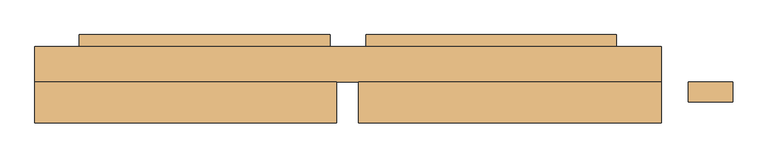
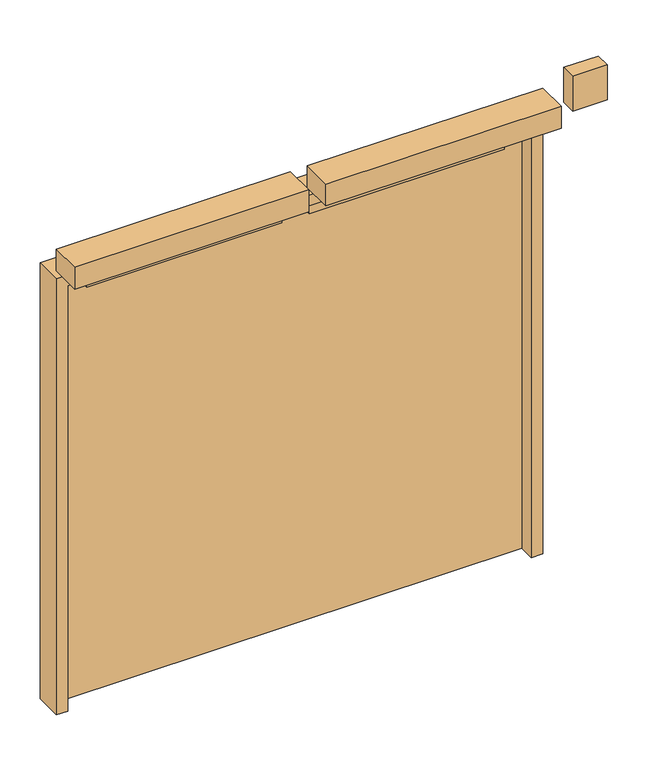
"""IFC4 building model written with IfcOpenShell, lengths in millimetres: door geometry, LOC_Pardörr : LOC_Pardörr."""

from ifc_helpers import new_model, si_unit, frame, origin, origin_with_axes, place, context, project, spatial, polyline, outline, extrude, source, transform, mapped, element, save


def door_fafea6f1(model_context):
    return source(origin(), model_context, "Body", "SweptSolid", [
        extrude(outline(polyline([(905.0, 60.0), (60.0, 60.0), (60.0, 99.5123201), (905.0, 99.5123201), (905.0, 60.0)])), frame((0.0, 0.0, 1890.0), z_axis=(0.0, 0.0, 1.0), x_axis=(1.0, 0.0, 0.0)), (0.0, 0.0, 1.0), 40.0),
        extrude(outline(polyline([(-60.0, 60.0), (-905.0, 60.0), (-905.0, 99.5123201), (-60.0, 99.5123201), (-60.0, 60.0)])), frame((0.0, 0.0, 1890.0), z_axis=(0.0, 0.0, 1.0), x_axis=(1.0, 0.0, 0.0)), (0.0, 0.0, 1.0), 40.0),
        extrude(outline(polyline([(905.0, -31.5696103), (60.0, -31.5696103), (60.0, 10.0), (905.0, 10.0), (905.0, -31.5696103)])), frame((0.0, 0.0, 1890.0), z_axis=(0.0, 0.0, 1.0), x_axis=(1.0, 0.0, 0.0)), (0.0, 0.0, 1.0), 40.0),
        extrude(outline(polyline([(-60.0, -31.5696103), (-905.0, -31.5696103), (-905.0, 10.0), (-60.0, 10.0), (-60.0, -31.5696103)])), frame((0.0, 0.0, 1890.0), z_axis=(0.0, 0.0, 1.0), x_axis=(1.0, 0.0, 0.0)), (0.0, 0.0, 1.0), 40.0),
        extrude(outline(polyline([(1005.0, 10.0), (-1005.0, 10.0), (-1005.0, 60.0), (1005.0, 60.0), (1005.0, 10.0)])), origin_with_axes(), (0.0, 0.0, 1.0), 1950.0),
        extrude(outline(polyline([(2000.0, -1055.0), (0.0, -1055.0), (0.0, -1005.0), (1950.0, -1005.0), (1950.0, 1005.0), (0.0, 1005.0), (0.0, 1055.0), (2000.0, 1055.0), (2000.0, -1055.0)])), frame((0.0, -60.0, 0.0), z_axis=(0.0, 1.0, 0.0), x_axis=(0.0, 0.0, 1.0)), (0.0, 0.0, 1.0), 120.0),
        extrude(outline(polyline([(1295.9876923, -126.6811453), (1145.9876923, -126.6811453), (1145.9876923, -60.0), (1295.9876923, -60.0), (1295.9876923, -126.6811453)])), frame((0.0, 0.0, 2037.7010948), z_axis=(0.0, 0.0, 1.0), x_axis=(1.0, 0.0, 0.0)), (0.0, 0.0, 1.0), 160.0),
        extrude(outline(polyline([(1055.0, -198.0061913), (35.0, -198.0061913), (35.0, -60.0), (1055.0, -60.0), (1055.0, -198.0061913)])), frame((0.0, 0.0, 2035.3458836), z_axis=(0.0, 0.0, 1.0), x_axis=(1.0, 0.0, 0.0)), (0.0, 0.0, 1.0), 100.0),
        extrude(outline(polyline([(-38.7694663, -198.0061913), (-1055.0, -198.0061913), (-1055.0, -60.0), (-38.7694663, -60.0), (-38.7694663, -198.0061913)])), frame((0.0, 0.0, 2035.3458836), z_axis=(0.0, 0.0, 1.0), x_axis=(1.0, 0.0, 0.0)), (0.0, 0.0, 1.0), 100.0),
    ])


if __name__ == "__main__":
    model = new_model("IFC4")
    model_context = context("Model", 3, world=origin())
    ifc_project = project(units=[si_unit("LENGTHUNIT", "METRE", prefix="MILLI")], contexts=[model_context])
    site = spatial("IfcSite", under=ifc_project)
    building = spatial("IfcBuilding", under=site)
    placement = place(None, origin())
    door_shape = door_fafea6f1(model_context)
    element("IfcDoor", 1, ObjectType="LOC_Pardörr : LOC_Pardörr", at=placement, inside=building, context=model_context, shape_type="MappedRepresentation", body=[
        mapped(door_shape, transform((0.0, 0.0, 0.0), x_axis=(1.0, 0.0, 0.0), y_axis=(0.0, 1.0, 0.0), z_axis=(0.0, 0.0, 1.0))),
    ])
    save(model, "model.ifc")
